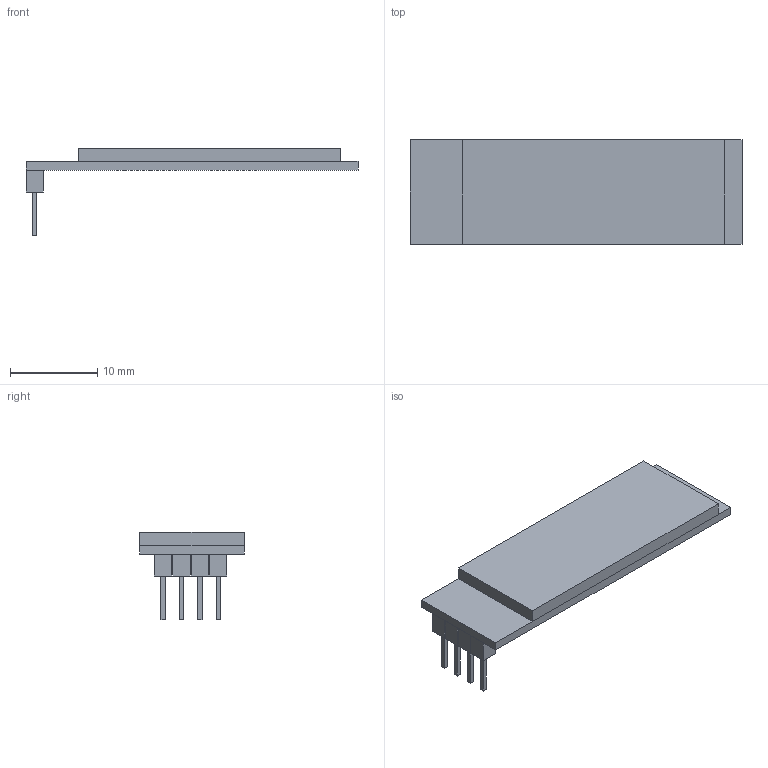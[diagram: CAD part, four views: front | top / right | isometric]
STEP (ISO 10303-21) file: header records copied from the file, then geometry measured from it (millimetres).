
FILE_DESCRIPTION(('FreeCAD Model'),'2;1');
FILE_NAME('Open CASCADE Shape Model','2023-05-06T18:44:57',('Author'),( ''),'Open CASCADE STEP processor 7.5','FreeCAD','Unknown');
FILE_SCHEMA(('AUTOMOTIVE_DESIGN { 1 0 10303 214 1 1 1 1 }'));
Length unit declared in the file: millimetre
Products named in the file (6): display1309; Array001.step; Body098.step; Body097.step; display1309.step; nozhki.step
Assembly tree (8 placements, depth 5):
  display1309
    display1309.step
      nozhki.step
        Array001.step
          Body098.step  x4
      Body097.step
Bounding box: 38 x 12 x 10 mm (x, y, z)
Volume: 1041 mm3; surface area: 1290 mm2
Topology: 5 solids, 5 shells, 56 faces, 122 edges, 80 vertices
Faces by surface type: plane 56
Entity records: 835 total; most frequent: DIRECTION 124, CARTESIAN_POINT 119, ORIENTED_EDGE 100, VECTOR 50, LINE 50, EDGE_CURVE 50, AXIS2_PLACEMENT_3D 37, VERTEX_POINT 32
